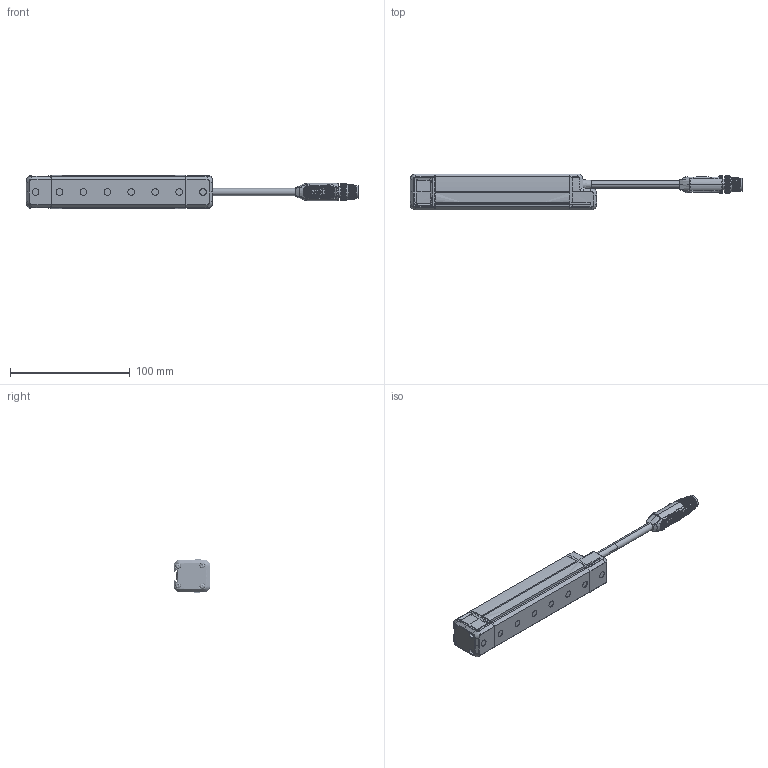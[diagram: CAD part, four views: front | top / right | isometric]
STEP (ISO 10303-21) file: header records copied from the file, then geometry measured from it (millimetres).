
FILE_DESCRIPTION((''),'2;1');
FILE_NAME('EFP-0820_ASM','2022-12-27T17:56:09',('18720616900'),(''),'CREO PARAMETRIC BY PTC INC, 2019010','CREO PARAMETRIC BY PTC INC, 2019010','');
FILE_SCHEMA(('CONFIG_CONTROL_DESIGN'));
Products named in the file (9): EFP-3-_A; EFP-3-_AF; EFP2-0; M26-14; M26-30; _0002; _0001_ASM; EFP-0820_ASM
Assembly tree (14 placements, depth 3):
  EFP-0820_ASM
    EFP-3-_A
    EFP-3-_AF
    EFP-3-_AF
    EFP2-0
    M26-14  x2
    M26-30  x6
    _0001_ASM
      _0002
Bounding box: 277.47 x 30 x 28.01 mm (x, y, z)
Volume: 111977 mm3; surface area: 39307.8 mm2
Topology: 13 solids, 649 shells, 2938 faces, 9559 edges, 7309 vertices
Faces by surface type: bspline 1174, plane 709, cone 450, cylinder 378, extrusion 161, torus 60, revolution 4, sphere 2
Entity records: 138958 total; most frequent: CARTESIAN_POINT 81000, ORIENTED_EDGE 11572, DIRECTION 8481, EDGE_CURVE 7743, VERTEX_POINT 6188, VECTOR 3963, LINE 3802, B_SPLINE_CURVE_WITH_KNOTS 3082
